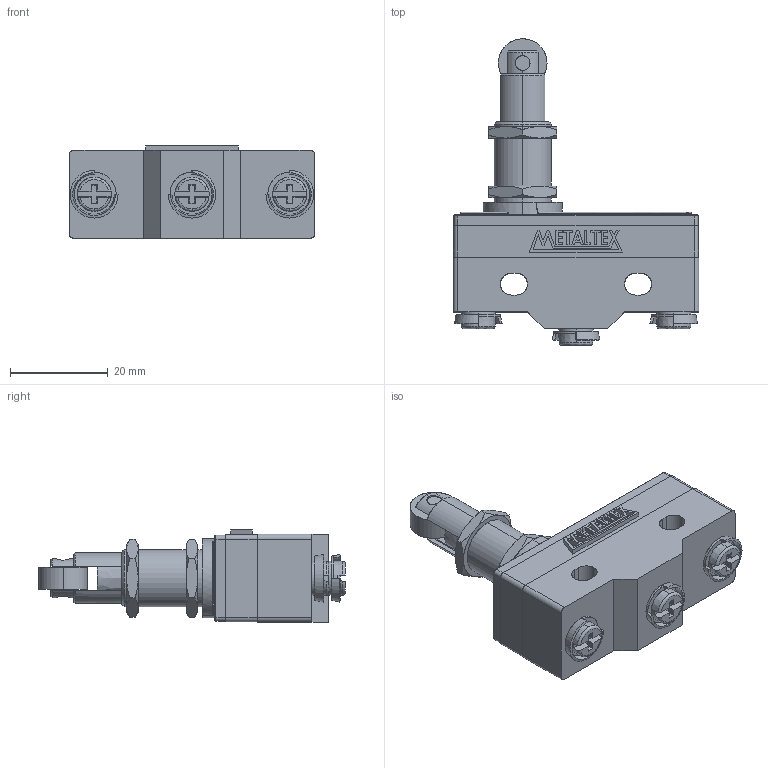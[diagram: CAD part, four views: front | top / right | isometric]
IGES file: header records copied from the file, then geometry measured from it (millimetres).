
Start section: SolidWorks IGES file using analytic representation for surfaces
Global section: file name: D:\X - Arquivos\PROEX\Empresas\P11 - METALTEX\01 - Produtos\IGES\4ª remessa\5ª etapa\FM1308.IGS; native system: SolidWorks 2012; preprocessor: SolidWorks 2012; author: Usuario; date: 180601.135137; units: millimetre
Bounding box: 50.3 x 62.67 x 18.9 mm (x, y, z)
Surface area: 8361.2 mm2 (no closed solid volume)
Topology: 0 solids, 0 shells, 348 faces, 3884 edges, 3884 vertices
Faces by surface type: bspline 227, revolution 121
